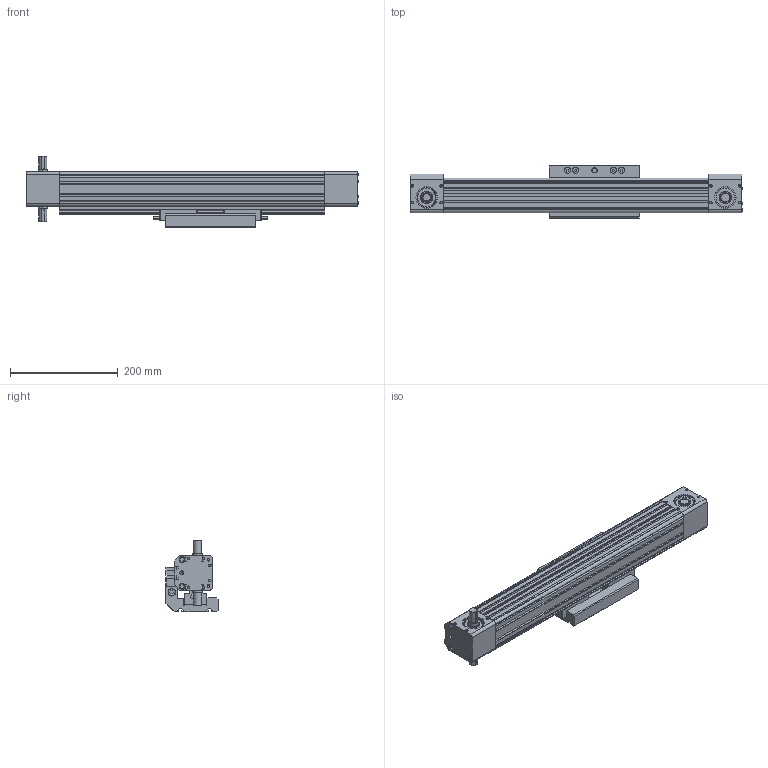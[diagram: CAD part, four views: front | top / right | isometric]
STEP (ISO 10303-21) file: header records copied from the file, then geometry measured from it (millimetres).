
FILE_DESCRIPTION((''),'2;1');
FILE_NAME('TCDH65-S250','2018-02-03T',('lenovo'),(''),'PRO/ENGINEER BY PARAMETRIC TECHNOLOGY CORPORATION, 2010280','PRO/ENGINEER BY PARAMETRIC TECHNOLOGY CORPORATION, 2010280','');
FILE_SCHEMA(('CONFIG_CONTROL_DESIGN'));
Products named in the file (1): TCDH65-S250
Bounding box: 616 x 96.5 x 132.5 mm (x, y, z)
Surface area: 590605.2 mm2 (no closed solid volume)
Topology: 0 solids, 42 shells, 2209 faces, 5858 edges, 3846 vertices
Faces by surface type: plane 1117, cylinder 810, cone 230, torus 52
Entity records: 69775 total; most frequent: CARTESIAN_POINT 13037, DIRECTION 12205, ORIENTED_EDGE 11638, EDGE_CURVE 5858, AXIS2_PLACEMENT_3D 4335, VERTEX_POINT 3846, VECTOR 3535, LINE 3535
